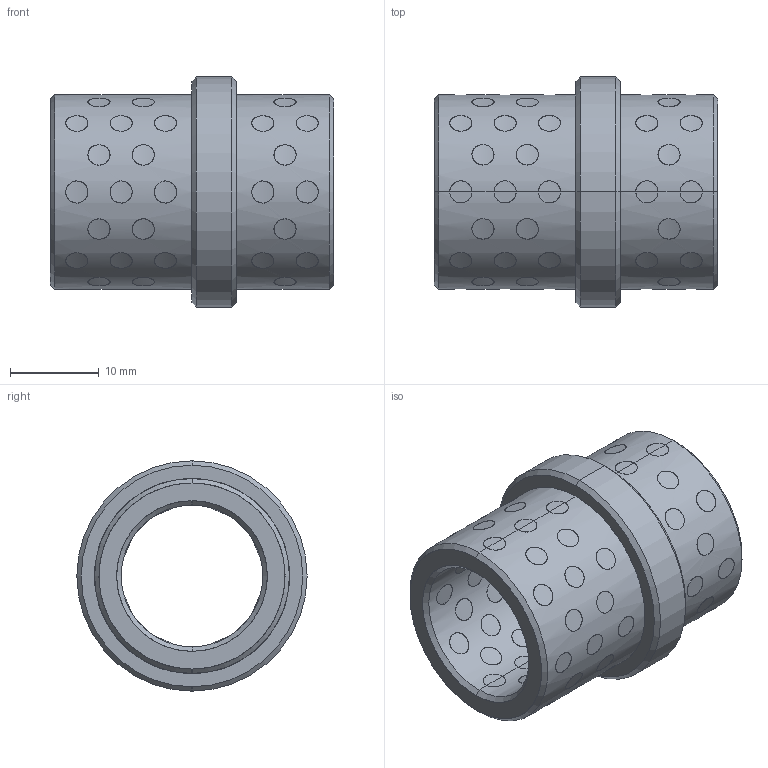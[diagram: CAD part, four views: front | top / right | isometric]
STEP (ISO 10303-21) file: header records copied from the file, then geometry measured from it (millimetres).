
FILE_DESCRIPTION(('CATIA V5 STEP Exchange'),'2;1');
FILE_NAME('C:\Users\Utente\Desktop\3D files G403\G4031632.stp','2020-04-22T08:51:56+00:00',('none'),('none'),'CATIA Version 5 Release 20 GA (IN-10)','CATIA V5 STEP AP203','none');
FILE_SCHEMA(('CONFIG_CONTROL_DESIGN'));
Length unit declared in the file: millimetre
Products named in the file (1): G4031632
Bounding box: 32 x 26 x 26 mm (x, y, z)
Surface area: 7436.9 mm2 (no closed solid volume)
Topology: 0 solids, 428 shells, 428 faces, 1872 edges, 1872 vertices
Faces by surface type: cylinder 412, revolution 12, plane 4
Entity records: 35489 total; most frequent: CARTESIAN_POINT 22524, ORIENTED_EDGE 1872, EDGE_CURVE 1872, VERTEX_POINT 1872, DIRECTION 1521, B_SPLINE_CURVE_WITH_KNOTS 1207, VECTOR 632, LINE 632
